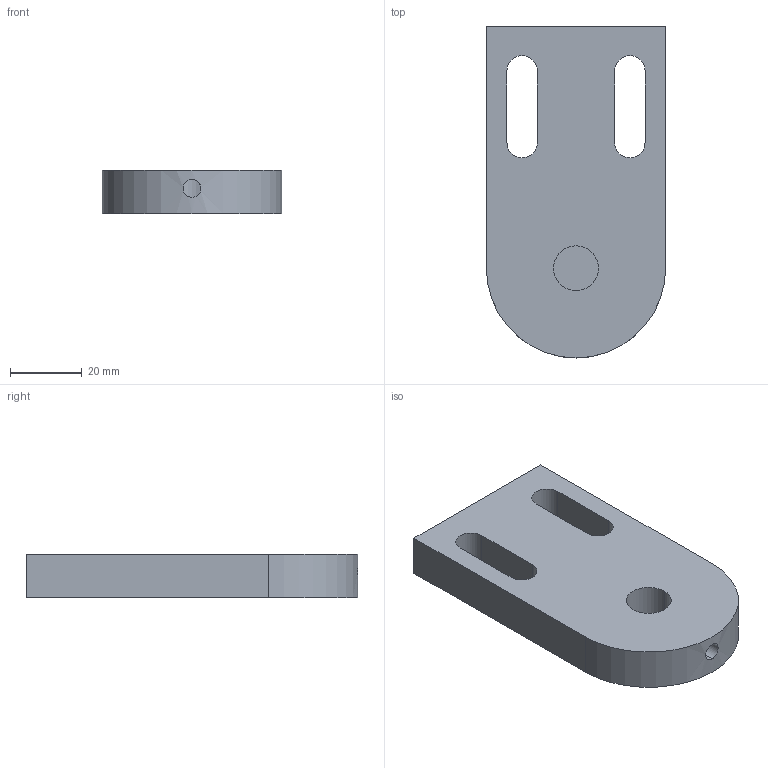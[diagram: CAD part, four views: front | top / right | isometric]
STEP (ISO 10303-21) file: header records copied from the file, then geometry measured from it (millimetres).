
FILE_DESCRIPTION (( 'STEP AP203' ), '1' );
FILE_NAME ('084.802.030.STEP', '2013-01-29T13:43:53', ( 'Alusic' ), ( 'Alusic' ), 'SwSTEP 2.0', 'SolidWorks 2011', '' );
FILE_SCHEMA (( 'CONFIG_CONTROL_DESIGN' ));
Length unit declared in the file: millimetre
Products named in the file (1): 084.802.030
Bounding box: 50 x 92.5 x 12 mm (x, y, z)
Volume: 45241.7 mm3; surface area: 13220.5 mm2
Topology: 1 solids, 1 shells, 19 faces, 48 edges, 32 vertices
Faces by surface type: plane 10, cylinder 9
Entity records: 781 total; most frequent: CARTESIAN_POINT 224, DIRECTION 98, ORIENTED_EDGE 96, EDGE_CURVE 48, AXIS2_PLACEMENT_3D 34, VERTEX_POINT 32, LINE 30, VECTOR 30
